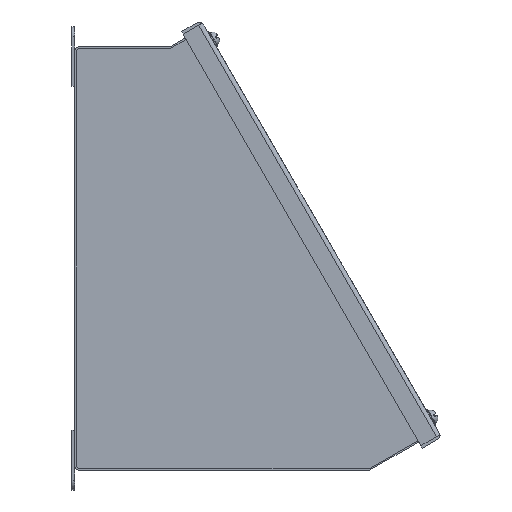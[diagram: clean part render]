
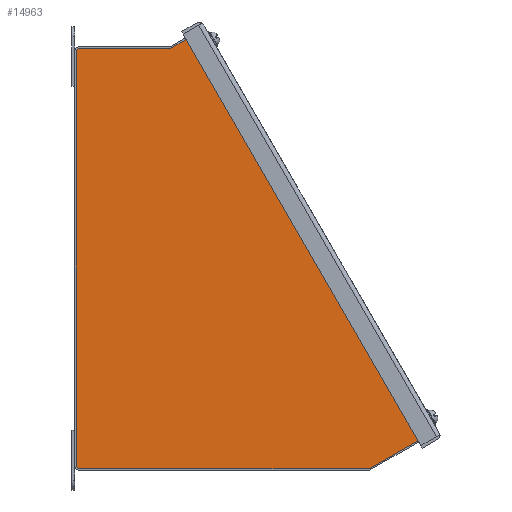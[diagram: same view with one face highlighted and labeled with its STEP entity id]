
A CAD part, left-side view. The second image highlights one B-rep face of the part: STEP entity #14963.
In plain terms, the highlighted planar face has unit normal (-1, 0, 0).
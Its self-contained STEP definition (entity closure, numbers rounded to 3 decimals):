
#1670=LINE('',#27680,#3190);
#1676=LINE('',#27693,#3196);
#1677=LINE('',#27695,#3197);
#1678=LINE('',#27697,#3198);
#1679=LINE('',#27701,#3199);
#1680=LINE('',#27703,#3200);
#1681=LINE('',#27707,#3201);
#1682=LINE('',#27711,#3202);
#1683=LINE('',#27715,#3203);
#1684=LINE('',#27719,#3204);
#1685=LINE('',#27721,#3205);
#1686=LINE('',#27722,#3206);
#3190=VECTOR('',#20145,1000.);
#3196=VECTOR('',#20153,1000.);
#3197=VECTOR('',#20156,1000.);
#3198=VECTOR('',#20157,1000.);
#3199=VECTOR('',#20160,1000.);
#3200=VECTOR('',#20161,1000.);
#3201=VECTOR('',#20164,1000.);
#3202=VECTOR('',#20167,1000.);
#3203=VECTOR('',#20170,1000.);
#3204=VECTOR('',#20173,1000.);
#3205=VECTOR('',#20174,1000.);
#3206=VECTOR('',#20175,1000.);
#7619=ORIENTED_EDGE('',*,*,#9851,.F.);
#7620=ORIENTED_EDGE('',*,*,#9852,.T.);
#7621=ORIENTED_EDGE('',*,*,#9853,.F.);
#7622=ORIENTED_EDGE('',*,*,#9854,.T.);
#7623=ORIENTED_EDGE('',*,*,#9855,.F.);
#7624=ORIENTED_EDGE('',*,*,#9856,.F.);
#7625=ORIENTED_EDGE('',*,*,#9857,.T.);
#7626=ORIENTED_EDGE('',*,*,#9858,.F.);
#7627=ORIENTED_EDGE('',*,*,#9859,.T.);
#7628=ORIENTED_EDGE('',*,*,#9860,.F.);
#7629=ORIENTED_EDGE('',*,*,#9861,.T.);
#7630=ORIENTED_EDGE('',*,*,#9862,.F.);
#7631=ORIENTED_EDGE('',*,*,#9863,.T.);
#7632=ORIENTED_EDGE('',*,*,#9864,.F.);
#7633=ORIENTED_EDGE('',*,*,#9865,.F.);
#7634=ORIENTED_EDGE('',*,*,#9845,.F.);
#7635=ORIENTED_EDGE('',*,*,#9866,.T.);
#9845=EDGE_CURVE('',#11298,#11299,#1670,.T.);
#9851=EDGE_CURVE('',#11304,#11302,#1676,.T.);
#9852=EDGE_CURVE('',#11304,#11305,#1677,.T.);
#9853=EDGE_CURVE('',#11306,#11305,#1678,.T.);
#9854=EDGE_CURVE('',#11306,#11307,#11776,.T.);
#9855=EDGE_CURVE('',#11308,#11307,#1679,.T.);
#9856=EDGE_CURVE('',#11309,#11308,#1680,.T.);
#9857=EDGE_CURVE('',#11309,#11310,#11777,.T.);
#9858=EDGE_CURVE('',#11311,#11310,#1681,.T.);
#9859=EDGE_CURVE('',#11311,#11312,#11778,.T.);
#9860=EDGE_CURVE('',#11313,#11312,#1682,.T.);
#9861=EDGE_CURVE('',#11313,#11314,#11779,.T.);
#9862=EDGE_CURVE('',#11315,#11314,#1683,.T.);
#9863=EDGE_CURVE('',#11315,#11316,#11780,.T.);
#9864=EDGE_CURVE('',#11317,#11316,#1684,.T.);
#9865=EDGE_CURVE('',#11299,#11317,#1685,.T.);
#9866=EDGE_CURVE('',#11298,#11302,#1686,.T.);
#11298=VERTEX_POINT('',#27679);
#11299=VERTEX_POINT('',#27681);
#11302=VERTEX_POINT('',#27688);
#11304=VERTEX_POINT('',#27692);
#11305=VERTEX_POINT('',#27696);
#11306=VERTEX_POINT('',#27698);
#11307=VERTEX_POINT('',#27700);
#11308=VERTEX_POINT('',#27702);
#11309=VERTEX_POINT('',#27704);
#11310=VERTEX_POINT('',#27706);
#11311=VERTEX_POINT('',#27708);
#11312=VERTEX_POINT('',#27710);
#11313=VERTEX_POINT('',#27712);
#11314=VERTEX_POINT('',#27714);
#11315=VERTEX_POINT('',#27716);
#11316=VERTEX_POINT('',#27718);
#11317=VERTEX_POINT('',#27720);
#11776=CIRCLE('',#16321,2.743);
#11777=CIRCLE('',#16322,2.743);
#11778=CIRCLE('',#16323,2.743);
#11779=CIRCLE('',#16324,2.743);
#11780=CIRCLE('',#16325,2.743);
#12663=EDGE_LOOP('',(#7619,#7620,#7621,#7622,#7623,#7624,#7625,#7626,#7627,
#7628,#7629,#7630,#7631,#7632,#7633,#7634,#7635));
#13593=FACE_BOUND('',#12663,.T.);
#14186=PLANE('',#16320);
#14963=ADVANCED_FACE('',(#13593),#14186,.T.);
#16320=AXIS2_PLACEMENT_3D('',#27694,#20154,#20155);
#16321=AXIS2_PLACEMENT_3D('',#27699,#20158,#20159);
#16322=AXIS2_PLACEMENT_3D('',#27705,#20162,#20163);
#16323=AXIS2_PLACEMENT_3D('',#27709,#20165,#20166);
#16324=AXIS2_PLACEMENT_3D('',#27713,#20168,#20169);
#16325=AXIS2_PLACEMENT_3D('',#27717,#20171,#20172);
#20145=DIRECTION('',(0.,-0.5,-0.866));
#20153=DIRECTION('',(0.,-0.5,-0.866));
#20154=DIRECTION('',(-1.,0.,0.));
#20155=DIRECTION('',(0.,-1.,0.));
#20156=DIRECTION('',(0.,-0.866,0.5));
#20157=DIRECTION('',(0.,-0.5,-0.866));
#20158=DIRECTION('',(-1.,0.,0.));
#20159=DIRECTION('',(0.,-1.,0.));
#20160=DIRECTION('',(0.,-0.866,0.5));
#20161=DIRECTION('',(0.,-1.,0.));
#20162=DIRECTION('',(-1.,0.,0.));
#20163=DIRECTION('',(0.,-1.,0.));
#20164=DIRECTION('',(0.,0.,1.));
#20165=DIRECTION('',(-1.,0.,0.));
#20166=DIRECTION('',(0.,-1.,0.));
#20167=DIRECTION('',(0.,1.,0.));
#20168=DIRECTION('',(-1.,0.,0.));
#20169=DIRECTION('',(0.,-1.,0.));
#20170=DIRECTION('',(0.,0.866,-0.5));
#20171=DIRECTION('',(-1.,0.,0.));
#20172=DIRECTION('',(0.,-1.,0.));
#20173=DIRECTION('',(0.,-0.5,-0.866));
#20174=DIRECTION('',(0.,-0.866,0.5));
#20175=DIRECTION('',(0.,0.5,0.866));
#27679=CARTESIAN_POINT('',(-1.829,-121.874,-96.535));
#27680=CARTESIAN_POINT('',(-1.829,-121.875,-96.537));
#27681=CARTESIAN_POINT('',(-1.829,-121.875,-96.537));
#27688=CARTESIAN_POINT('',(-1.829,7.387,127.351));
#27692=CARTESIAN_POINT('',(-1.829,7.388,127.353));
#27693=CARTESIAN_POINT('',(-1.829,-121.875,-96.537));
#27694=CARTESIAN_POINT('',(-1.829,15.328,144.763));
#27695=CARTESIAN_POINT('',(-1.829,5.012,128.724));
#27696=CARTESIAN_POINT('',(-1.829,5.804,128.267));
#27697=CARTESIAN_POINT('',(-1.829,15.328,144.763));
#27698=CARTESIAN_POINT('',(-1.829,13.956,142.388));
#27699=CARTESIAN_POINT('',(-1.829,16.332,141.016));
#27700=CARTESIAN_POINT('',(-1.829,17.703,143.392));
#27701=CARTESIAN_POINT('',(-1.829,33.011,134.554));
#27702=CARTESIAN_POINT('',(-1.829,33.011,134.554));
#27703=CARTESIAN_POINT('',(-1.829,93.454,134.554));
#27704=CARTESIAN_POINT('',(-1.829,90.711,134.554));
#27705=CARTESIAN_POINT('',(-1.829,90.711,131.811));
#27706=CARTESIAN_POINT('',(-1.829,93.454,131.811));
#27707=CARTESIAN_POINT('',(-1.829,93.454,-134.554));
#27708=CARTESIAN_POINT('',(-1.829,93.454,-131.811));
#27709=CARTESIAN_POINT('',(-1.829,90.711,-131.811));
#27710=CARTESIAN_POINT('',(-1.829,90.711,-134.554));
#27711=CARTESIAN_POINT('',(-1.829,-94.123,-134.554));
#27712=CARTESIAN_POINT('',(-1.829,-93.388,-134.554));
#27713=CARTESIAN_POINT('',(-1.829,-93.388,-131.811));
#27714=CARTESIAN_POINT('',(-1.829,-94.76,-134.186));
#27715=CARTESIAN_POINT('',(-1.829,-132.983,-112.118));
#27716=CARTESIAN_POINT('',(-1.829,-130.607,-113.49));
#27717=CARTESIAN_POINT('',(-1.829,-129.236,-111.114));
#27718=CARTESIAN_POINT('',(-1.829,-131.611,-109.743));
#27719=CARTESIAN_POINT('',(-1.829,15.328,144.763));
#27720=CARTESIAN_POINT('',(-1.829,-123.459,-95.622));
#27721=CARTESIAN_POINT('',(-1.829,-124.251,-95.165));
#27722=CARTESIAN_POINT('',(-1.829,-121.874,-96.535));
